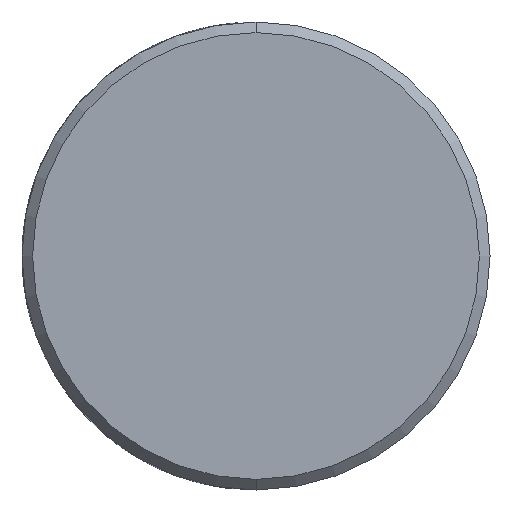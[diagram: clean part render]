
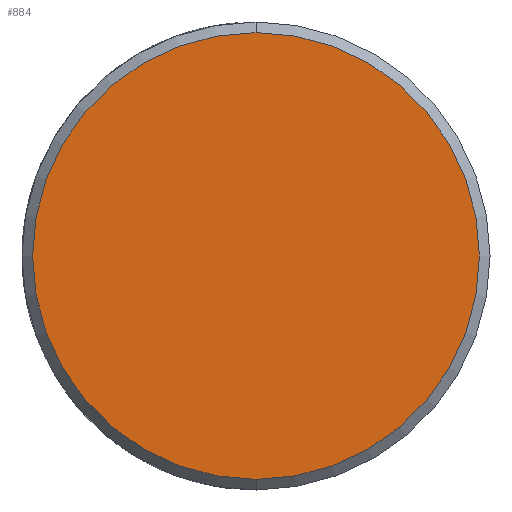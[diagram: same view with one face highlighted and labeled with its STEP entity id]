
A CAD part, front view. The second image highlights one B-rep face of the part: STEP entity #884.
In plain terms, the highlighted planar face has unit normal (0, -1, 0).
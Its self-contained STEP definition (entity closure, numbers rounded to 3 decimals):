
#65 = CIRCLE ( 'NONE', #1225, 10.5 ) ;
#77 = EDGE_LOOP ( 'NONE', ( #1390, #1043 ) ) ;
#104 = AXIS2_PLACEMENT_3D ( 'NONE', #887, #660, #328 ) ;
#251 = DIRECTION ( 'NONE',  ( 0., 0., -1. ) ) ;
#281 = CARTESIAN_POINT ( 'NONE',  ( 0., 0., 0. ) ) ;
#288 = VERTEX_POINT ( 'NONE', #549 ) ;
#328 = DIRECTION ( 'NONE',  ( 0., 0., -1. ) ) ;
#531 = CIRCLE ( 'NONE', #104, 10.5 ) ;
#549 = CARTESIAN_POINT ( 'NONE',  ( 0., 0., 10.5 ) ) ;
#660 = DIRECTION ( 'NONE',  ( 0., -1., 0. ) ) ;
#776 = PLANE ( 'NONE',  #1098 ) ;
#884 = ADVANCED_FACE ( 'NONE', ( #1738 ), #776, .T. ) ;
#887 = CARTESIAN_POINT ( 'NONE',  ( 0., 0., 0. ) ) ;
#992 = DIRECTION ( 'NONE',  ( 0., -1., 0. ) ) ;
#1043 = ORIENTED_EDGE ( 'NONE', *, *, #1595, .T. ) ;
#1098 = AXIS2_PLACEMENT_3D ( 'NONE', #1543, #992, #251 ) ;
#1225 = AXIS2_PLACEMENT_3D ( 'NONE', #281, #1241, #1795 ) ;
#1241 = DIRECTION ( 'NONE',  ( 0., -1., 0. ) ) ;
#1351 = VERTEX_POINT ( 'NONE', #1589 ) ;
#1390 = ORIENTED_EDGE ( 'NONE', *, *, #2358, .T. ) ;
#1543 = CARTESIAN_POINT ( 'NONE',  ( 0., 0., 0. ) ) ;
#1589 = CARTESIAN_POINT ( 'NONE',  ( 0., 0., -10.5 ) ) ;
#1595 = EDGE_CURVE ( 'NONE', #1351, #288, #531, .T. ) ;
#1738 = FACE_OUTER_BOUND ( 'NONE', #77, .T. ) ;
#1795 = DIRECTION ( 'NONE',  ( 0., 0., -1. ) ) ;
#2358 = EDGE_CURVE ( 'NONE', #288, #1351, #65, .T. ) ;
